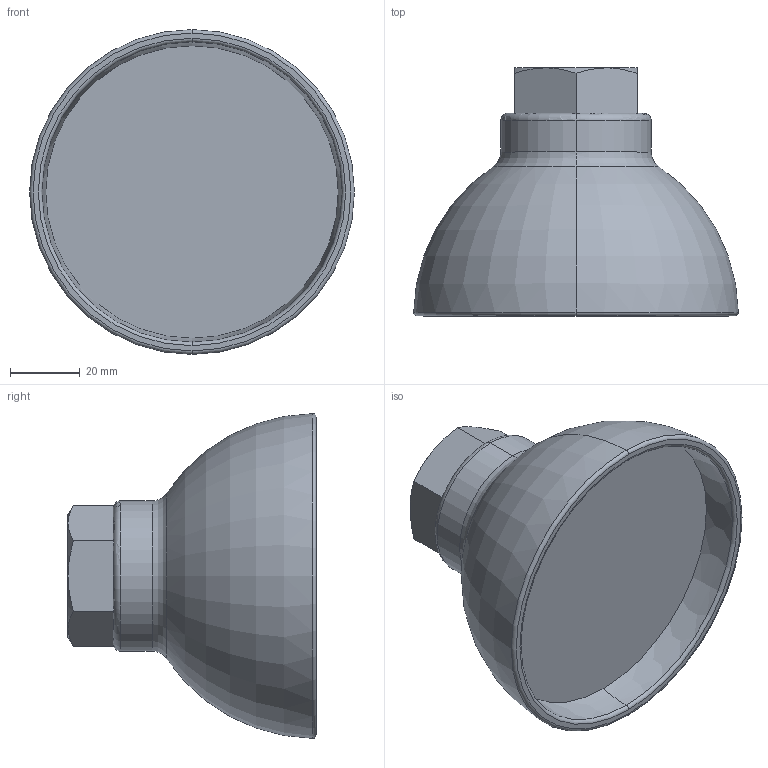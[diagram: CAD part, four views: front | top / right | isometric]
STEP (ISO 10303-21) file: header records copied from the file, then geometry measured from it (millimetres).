
FILE_DESCRIPTION (( 'STEP AP203' ), '1' );
FILE_NAME ('MS-2 20A.STEP', '2026-01-23T00:45:57', ( '' ), ( '' ), 'SwSTEP 2.0', 'SolidWorks 2024', '' );
FILE_SCHEMA (( 'CONFIG_CONTROL_DESIGN' ));
Length unit declared in the file: millimetre
Products named in the file (1): MS-2 20A
Bounding box: 92.98 x 71 x 92.98 mm (x, y, z)
Volume: 185836 mm3; surface area: 27632.1 mm2
Topology: 1 solids, 1 shells, 41 faces, 90 edges, 53 vertices
Faces by surface type: plane 16, torus 12, cone 11, cylinder 2
Entity records: 1264 total; most frequent: CARTESIAN_POINT 297, DIRECTION 197, ORIENTED_EDGE 180, EDGE_CURVE 90, AXIS2_PLACEMENT_3D 89, VERTEX_POINT 53, CIRCLE 47, EDGE_LOOP 43
